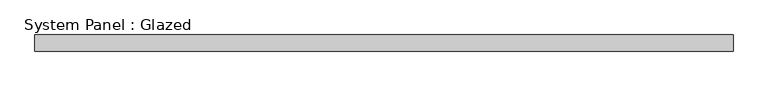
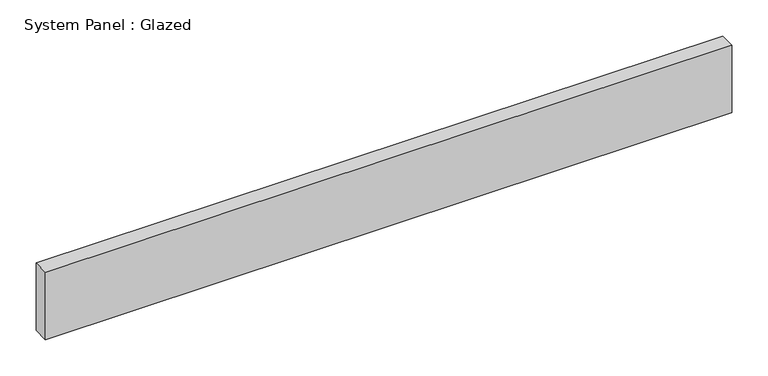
"""IFC4 building model written with IfcOpenShell, lengths in millimetres: plate geometry, System Panel : Glazed."""

from ifc_helpers import new_model, si_unit, origin, origin_with_axes, place, context, project, spatial, polyline, outline, extrude, source, transform, mapped, element, save


def system_panel_glazed_d0e7d8c0(model_context):
    return source(origin(), model_context, "Body", "SweptSolid", [
        extrude(outline(polyline([(550.303141, -44.45), (-550.303141, -44.45), (-550.303141, -19.05), (550.303141, -19.05), (550.303141, -44.45)])), origin_with_axes(), (0.0, 0.0, 1.0), 114.3),
    ])


if __name__ == "__main__":
    model = new_model("IFC4")
    model_context = context("Model", 3, world=origin())
    ifc_project = project(units=[si_unit("LENGTHUNIT", "METRE", prefix="MILLI")], contexts=[model_context])
    site = spatial("IfcSite", under=ifc_project)
    building = spatial("IfcBuilding", under=site)
    placement = place(None, origin())
    system_panel_glazed_shape = system_panel_glazed_d0e7d8c0(model_context)
    element("IfcPlate", 1, ObjectType="System Panel : Glazed", at=placement, inside=building, context=model_context, shape_type="MappedRepresentation", body=[
        mapped(system_panel_glazed_shape, transform((0.0, 0.0, 0.0), x_axis=(1.0, 0.0, 0.0), y_axis=(0.0, 1.0, 0.0), z_axis=(0.0, 0.0, 1.0))),
    ])
    save(model, "model.ifc")
